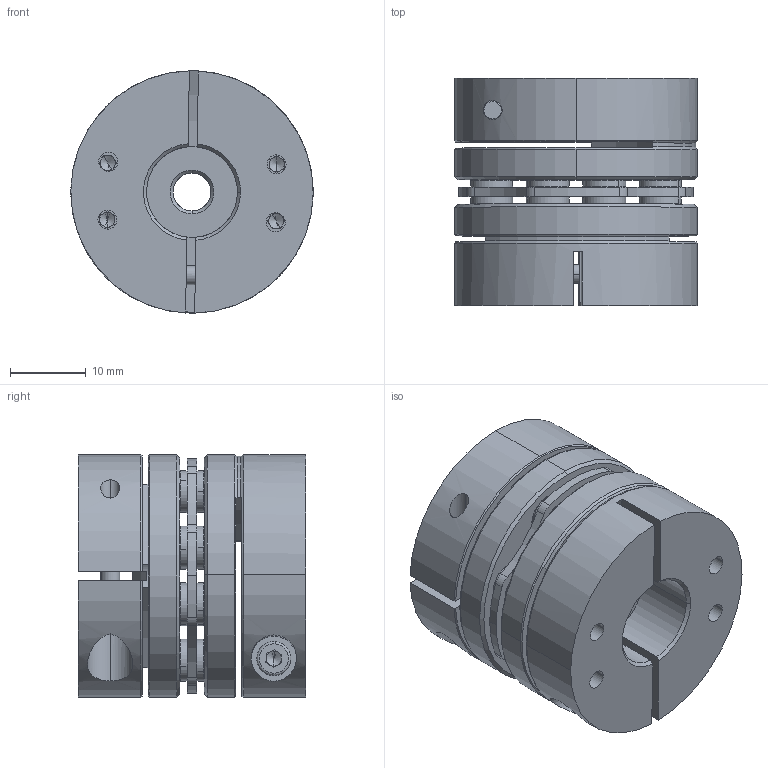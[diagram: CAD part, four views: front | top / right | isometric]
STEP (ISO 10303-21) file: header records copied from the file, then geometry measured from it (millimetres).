
FILE_DESCRIPTION (( 'STEP AP203' ), '1' );
FILE_NAME ('LDG-32-B1-5-12.STEP', '2021-10-28T05:03:57', ( '' ), ( '' ), 'SwSTEP 2.0', 'SolidWorks 2018', '' );
FILE_SCHEMA (( 'CONFIG_CONTROL_DESIGN' ));
Length unit declared in the file: millimetre
Products named in the file (2): 錨璃5^LDG-32蚾饜芞1; LDG-32-B1-5-12
Assembly tree (1 placements, depth 2):
  LDG-32-B1-5-12
    錨璃5^LDG-32蚾饜芞1
Bounding box: 32 x 30 x 32 mm (x, y, z)
Volume: 18108.8 mm3; surface area: 13232.9 mm2
Topology: 1 solids, 11 shells, 795 faces, 1967 edges, 1216 vertices
Faces by surface type: cylinder 301, plane 244, cone 230, torus 20
Entity records: 24193 total; most frequent: CARTESIAN_POINT 4474, DIRECTION 4465, ORIENTED_EDGE 3878, EDGE_CURVE 1939, AXIS2_PLACEMENT_3D 1819, VERTEX_POINT 1216, CIRCLE 1020, EDGE_LOOP 939
